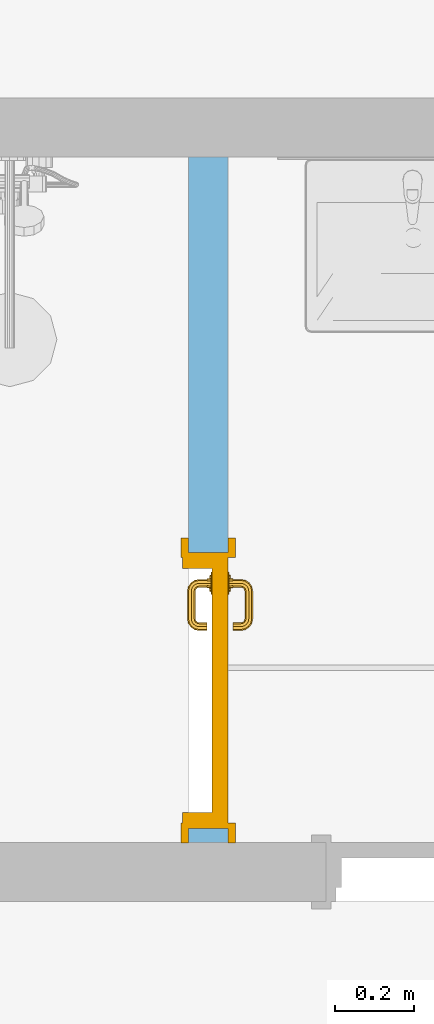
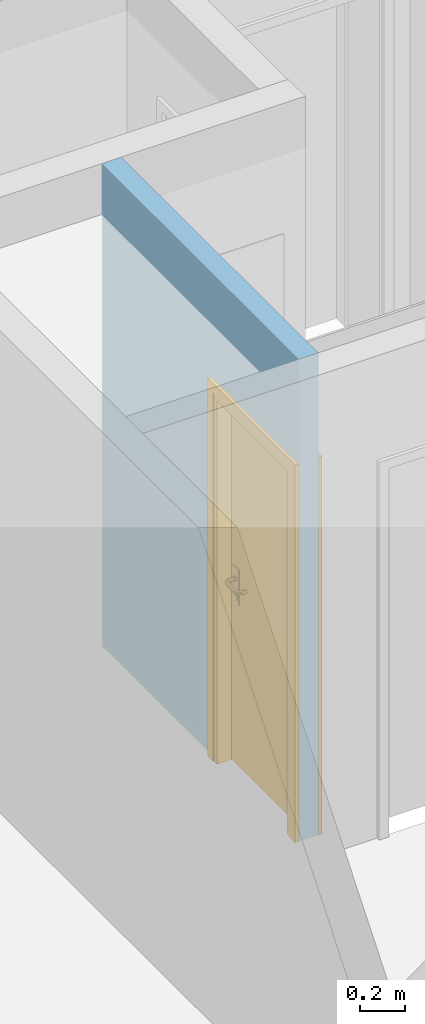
# One storey, part 49 of 127: 1 door, 1 opening, plus 1 element that does not belong to this part.
"""IFC2X3 building model written with IfcOpenShell, lengths in millimetres."""

from ifc_helpers import new_model, entity, si_unit, converted_unit, derived_unit, money_unit, direction, frame, origin_with_axes, origin_2d_with_axis, place, context, subcontext, project, spatial, polyline, rectangle, outline, extrude, open_shell, faceted_brep, surface_model, material, layer, layer_set, layer_usage, type_object, element, fill, save


model = new_model("IFC2X3")

# Units and contexts
model_context = context("Model", 3, precision=1e-05, world=origin_with_axes(), true_north=direction((0.0, 1.0)))
body_context = subcontext(model_context, "Body", "Model", "MODEL_VIEW")
ifc_project = project(units=[si_unit("LENGTHUNIT", "METRE", prefix="MILLI"), si_unit("AREAUNIT", "SQUARE_METRE"), si_unit("VOLUMEUNIT", "CUBIC_METRE"), converted_unit("PLANEANGLEUNIT", "DEGREE", entity("IfcPlaneAngleMeasure", 0.0174532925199), si_unit("PLANEANGLEUNIT", "RADIAN"), dimensions=[0, 0, 0, 0, 0, 0, 0]), si_unit("SOLIDANGLEUNIT", "STERADIAN"), money_unit("EUR"), converted_unit("TIMEUNIT", "Year", entity("IfcTimeMeasure", 31556926.0), si_unit("TIMEUNIT", "SECOND"), dimensions=[0, 0, 1, 0, 0, 0, 0]), si_unit("MASSUNIT", "GRAM", prefix="KILO"), si_unit("THERMODYNAMICTEMPERATUREUNIT", "DEGREE_CELSIUS"), si_unit("LUMINOUSINTENSITYUNIT", "LUMEN"), si_unit("ENERGYUNIT", "JOULE", prefix="MEGA"), derived_unit("THERMALCONDUCTANCEUNIT", [(si_unit("POWERUNIT", "WATT"), 1), (si_unit("LENGTHUNIT", "METRE"), -1), (si_unit("THERMODYNAMICTEMPERATUREUNIT", "KELVIN"), -1)]), derived_unit("SPECIFICHEATCAPACITYUNIT", [(si_unit("ENERGYUNIT", "JOULE"), 1), (si_unit("MASSUNIT", "GRAM", prefix="KILO"), -1), (si_unit("THERMODYNAMICTEMPERATUREUNIT", "KELVIN"), -1)]), derived_unit("MASSDENSITYUNIT", [(si_unit("MASSUNIT", "GRAM", prefix="KILO"), 1), (si_unit("VOLUMEUNIT", "CUBIC_METRE"), -1)])], contexts=[model_context])

# Site, building, storey
site_placement = place(None, origin_with_axes())
site = spatial("IfcSite", under=ifc_project, at=site_placement, Name="Site", CompositionType="ELEMENT")
building_placement = place(site_placement, origin_with_axes())
building = spatial("IfcBuilding", under=site, at=building_placement, Name="Building", CompositionType="ELEMENT")
storey_placement = place(building_placement, origin_with_axes())
storey = spatial("IfcBuildingStorey", under=building, at=storey_placement, Name="1 KORRUS", CompositionType="ELEMENT", Elevation=0.0)

# Wall, opening, door
ifc_material = material(Name="Kivi -Ol.Olev Konstruktsioon")
ifc_layer = layer(ifc_material, 100.0, ventilated="UNKNOWN")
ifc_layer_set = layer_set([ifc_layer], Name="ol.olev ss 100")
ifc_layer_usage = layer_usage(ifc_layer_set, "AXIS2", "POSITIVE", 0.0)
wall_type = type_object("IfcWallType", Name="SW - 036", PredefinedType="NOTDEFINED")
wall_placement = place(storey_placement, frame((69999.2702894, 39274.0649255, 0.0), z_axis=(0.0, 0.0, 1.0), x_axis=(0.0, -1.0, 0.0)))
wall = element("IfcWallStandardCase", 1, at=wall_placement, inside=storey, type_object=wall_type, material=ifc_layer_usage, Name="ol.olev ss 100", context=body_context, shape_type="SweptSolid", body=[
    extrude(outline(polyline([(0.0, 0.0), (1739.99999933, 0.0), (1739.99999934, 100.0), (0.0, 100.0), (0.0, 0.0)])), origin_with_axes(), (0.0, 0.0, 1.0), 2600.0),
])
opening_placement = place(wall_placement, frame((1354.10934327, 0.0, 0.0), z_axis=(0.0, 0.0, 1.0), x_axis=(1.0, 0.0, 0.0)))
opening = element("IfcOpeningElement", 2, at=opening_placement, cuts=wall, Name="Siseuks * Door 22", context=body_context, shape_type="SweptSolid", body=[
    extrude(rectangle(XDim=700.000000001, YDim=2000.0, at=origin_2d_with_axis()), frame((0.0, -100.0, 1000.0), z_axis=(0.0, 1.0, 0.0), x_axis=(1.0, 0.0, 0.0)), (0.0, 0.0, 1.0), 300.0),
    extrude(rectangle(XDim=773.999999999, YDim=2037.0, at=origin_2d_with_axis()), frame((0.0, 0.0, 1018.5), z_axis=(0.0, 1.0, 0.0), x_axis=(1.0, 0.0, 0.0)), (0.0, 0.0, -1.0), 100.0),
    extrude(rectangle(XDim=773.999999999, YDim=2037.0, at=origin_2d_with_axis()), frame((0.0, 100.0, 1018.5), z_axis=(0.0, -1.0, 0.0), x_axis=(1.0, 0.0, 0.0)), (0.0, 0.0, -1.0), 100.0),
])
door_style = type_object("IfcDoorStyle", Name="SU-B126B   700×2\xa0000", ConstructionType="NOTDEFINED", OperationType="SINGLE_SWING_RIGHT", ParameterTakesPrecedence=False, Sizeable=False)
door_placement = place(opening_placement, frame((-350.0, 0.0, 0.0), z_axis=(0.0, 0.0, 1.0), x_axis=(1.0, 0.0, 0.0)))
door = element("IfcDoor", 3, at=door_placement, inside=storey, type_object=door_style, Name="Siseuks * Door 22", OverallHeight=2000.0, OverallWidth=700.0, context=body_context, shape_type="SurfaceModel", body=[
    faceted_brep([(-36.9999999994, -19.0, 0.0), (-36.9999999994, 0.0, 0.0), (12.9999999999, 0.0, 0.0), (12.9999999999, -19.0, 0.0), (-36.9999999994, -19.0, 2037.0), (-36.9999999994, 0.0, 2037.0), (12.9999999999, 0.0, 1987.0), (12.9999999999, -19.0, 1987.0)], [[[0, 1, 2, 3]], [[4, 5, 1, 0]], [[1, 5, 6, 2]], [[3, 2, 6, 7]], [[0, 3, 7, 4]], [[7, 6, 5, 4]]]),
    faceted_brep([(737.0, -19.0, 2037.0), (737.0, 0.0, 2037.0), (687.000000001, 0.0, 1987.0), (687.000000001, -19.0, 1987.0), (737.0, -19.0, 0.0), (737.0, 0.0, 0.0), (687.000000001, 0.0, 0.0), (687.000000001, -19.0, 0.0)], [[[0, 1, 2, 3]], [[4, 5, 1, 0]], [[1, 5, 6, 2]], [[3, 2, 6, 7]], [[0, 3, 7, 4]], [[7, 6, 5, 4]]]),
    faceted_brep([(-36.9999999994, -19.0, 2037.0), (-36.9999999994, 0.0, 2037.0), (12.9999999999, 0.0, 1987.0), (12.9999999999, -19.0, 1987.0), (737.0, -19.0, 2037.0), (737.0, 0.0, 2037.0), (687.000000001, 0.0, 1987.0), (687.000000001, -19.0, 1987.0)], [[[0, 1, 2, 3]], [[4, 5, 1, 0]], [[1, 5, 6, 2]], [[3, 2, 6, 7]], [[0, 3, 7, 4]], [[7, 6, 5, 4]]]),
    faceted_brep([(-36.9999999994, 119.0, 0.0), (12.9999999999, 119.0, 0.0), (12.9999999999, 100.0, 0.0), (-36.9999999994, 100.0, 0.0), (-36.9999999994, 119.0, 2037.0), (12.9999999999, 119.0, 1987.0), (12.9999999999, 100.0, 1987.0), (-36.9999999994, 100.0, 2037.0)], [[[0, 1, 2, 3]], [[0, 4, 5, 1]], [[1, 5, 6, 2]], [[3, 2, 6, 7]], [[4, 0, 3, 7]], [[5, 4, 7, 6]]]),
    faceted_brep([(737.0, 119.0, 2037.0), (687.000000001, 119.0, 1987.0), (687.000000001, 100.0, 1987.0), (737.0, 100.0, 2037.0), (737.0, 119.0, 0.0), (687.000000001, 119.0, 0.0), (687.000000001, 100.0, 0.0), (737.0, 100.0, 0.0)], [[[0, 1, 2, 3]], [[0, 4, 5, 1]], [[1, 5, 6, 2]], [[3, 2, 6, 7]], [[4, 0, 3, 7]], [[5, 4, 7, 6]]]),
    faceted_brep([(-36.9999999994, 119.0, 2037.0), (12.9999999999, 119.0, 1987.0), (12.9999999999, 100.0, 1987.0), (-36.9999999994, 100.0, 2037.0), (737.0, 119.0, 2037.0), (687.000000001, 119.0, 1987.0), (687.000000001, 100.0, 1987.0), (737.0, 100.0, 2037.0)], [[[0, 1, 2, 3]], [[0, 4, 5, 1]], [[1, 5, 6, 2]], [[3, 2, 6, 7]], [[4, 0, 3, 7]], [[5, 4, 7, 6]]]),
    faceted_brep([(40.0, 60.0000000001, 0.0), (40.0, 60.0000000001, 1960.0), (40.0, -15.0, 1960.0), (40.0, -15.0, 0.0), (28.0000000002, 60.0000000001, 1960.0), (28.0000000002, 60.0000000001, 0.0), (28.0000000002, 100.0, 1960.0), (0.0, 100.0, 1960.0), (0.0, -15.0, 1960.0), (0.0, -15.0, 0.0), (0.0, 100.0, 0.0), (28.0000000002, 100.0, 0.0)], [[[0, 1, 2, 3]], [[4, 1, 0, 5]], [[4, 6, 7, 8, 2, 1]], [[3, 2, 8, 9]], [[5, 0, 3, 9, 10, 11]], [[6, 4, 5, 11]], [[6, 11, 10, 7]], [[10, 9, 8, 7]]]),
    faceted_brep([(672.0, 60.0000000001, 1960.0), (660.000000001, 60.0000000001, 1960.0), (660.000000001, -15.0, 1960.0), (700.000000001, -15.0, 1960.0), (700.000000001, 100.0, 1960.0), (672.0, 100.0, 1960.0), (672.0, 60.0000000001, 0.0), (660.000000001, 60.0000000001, 0.0), (660.000000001, -15.0, 0.0), (700.000000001, -15.0, 0.0), (700.000000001, 100.0, 0.0), (672.0, 100.0, 0.0)], [[[0, 1, 2, 3, 4, 5]], [[1, 0, 6, 7]], [[1, 7, 8, 2]], [[3, 2, 8, 9]], [[4, 3, 9, 10]], [[11, 5, 4, 10]], [[0, 5, 11, 6]], [[6, 11, 10, 9, 8, 7]]]),
    faceted_brep([(28.0000000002, 100.0, 1972.0), (28.0000000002, 100.0, 1960.0), (0.0, 100.0, 1960.0), (0.0, 100.0, 2000.0), (700.000000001, 100.0, 2000.0), (700.000000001, 100.0, 1960.0), (672.0, 100.0, 1960.0), (672.0, 100.0, 1972.0), (28.0000000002, 60.0000000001, 1972.0), (28.0000000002, 60.0000000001, 1960.0), (40.0, 60.0000000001, 1960.0), (40.0, -15.0, 1960.0), (0.0, -15.0, 1960.0), (0.0, -15.0, 2000.0), (700.000000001, -15.0, 2000.0), (700.000000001, -15.0, 1960.0), (672.0, 60.0000000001, 1960.0), (660.000000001, -15.0, 1960.0), (660.000000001, 60.0000000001, 1960.0), (672.0, 60.0000000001, 1972.0)], [[[0, 1, 2, 3, 4, 5, 6, 7]], [[1, 0, 8, 9]], [[9, 10, 11, 12, 2, 1]], [[2, 12, 13, 3]], [[3, 13, 14, 4]], [[4, 14, 15, 5]], [[16, 6, 5, 15, 17, 18]], [[7, 6, 16, 19]], [[0, 7, 19, 8]], [[16, 18, 10, 9, 8, 19]], [[10, 18, 17, 11]], [[17, 15, 14, 13, 12, 11]]]),
    faceted_brep([(49.5000000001, 60.0000000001, 1060.0), (49.5000000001, 57.0, 1060.0), (106.500000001, 57.0, 1060.0), (106.500000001, 60.0000000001, 1060.0), (49.5000000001, 60.0000000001, 870.0), (49.5000000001, 57.0, 870.0), (106.500000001, 57.0, 870.0), (106.500000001, 60.0000000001, 870.0)], [[[0, 1, 2, 3]], [[4, 5, 1, 0]], [[1, 5, 6, 2]], [[3, 2, 6, 7]], [[0, 3, 7, 4]], [[7, 6, 5, 4]]]),
    surface_model("IfcShellBasedSurfaceModel", [(88.0000000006, 47.0, 1000.0), (88.0000000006, 27.9849140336, 1000.0), (85.0710678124, 27.696439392, 992.928932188), (85.0710678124, 47.0, 992.928932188), (85.0710678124, 47.0, 1007.07106781), (85.0710678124, 27.696439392, 1007.07106781), (88.9422033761, 23.2481377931, 1000.0), (86.1832095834, 22.1053251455, 992.928932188), (78.0000000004, 27.0, 990.0), (78.0000000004, 47.0, 990.0), (78.0000000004, 47.0, 1010.0), (78.0000000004, 27.0, 1010.0), (86.1832095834, 22.1053251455, 1007.07106781), (91.0674625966, 20.0674625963, 1000.0), (88.9558201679, 17.9558201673, 992.928932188), (79.5224093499, 19.3463313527, 990.0), (70.9289321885, 26.303560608, 992.928932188), (70.9289321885, 47.0, 992.928932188), (70.9289321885, 47.0, 1007.07106781), (70.9289321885, 26.303560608, 1007.07106781), (79.5224093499, 19.3463313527, 1010.0), (88.9558201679, 17.9558201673, 1007.07106781), (94.2481377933, 17.9422033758, 1000.0), (93.1053251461, 15.1832095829, 992.928932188), (83.857864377, 12.8578643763, 990.0), (72.8616091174, 16.5873375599, 992.928932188), (68.0000000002, 26.0150859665, 1000.0), (68.0000000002, 47.0, 1000.0), (72.8616091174, 16.5873375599, 1007.07106781), (83.857864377, 12.8578643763, 1010.0), (93.1053251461, 15.1832095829, 1007.07106781), (98.9849140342, 17.0000000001, 1000.0), (98.6964393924, 14.0710678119, 992.928932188), (90.3463313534, 8.52240934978, 990.0), (78.7599085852, 7.75990858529, 992.928932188), (70.1026153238, 15.4445249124, 1000.0), (78.7599085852, 7.75990858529, 1007.07106781), (90.3463313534, 8.52240934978, 1010.0), (98.6964393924, 14.0710678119, 1007.07106781), (167.015085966, 17.0000000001, 1000.0), (167.303560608, 14.0710678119, 992.928932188), (98.0, 7.00000000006, 990.0), (87.5873375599, 1.86160911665, 992.928932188), (76.6482661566, 5.64826615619, 1000.0), (87.5873375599, 1.86160911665, 1007.07106781), (98.0, 7.00000000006, 1010.0), (167.303560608, 14.0710678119, 1007.07106781), (171.751862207, 17.9422033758, 1000.0), (172.894674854, 15.1832095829, 992.928932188), (168.000000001, 7.00000000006, 990.0), (97.3035606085, -0.0710678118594, 992.928932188), (86.4445249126, -0.897384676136, 1000.0), (97.3035606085, -0.0710678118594, 1007.07106781), (168.000000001, 7.00000000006, 1010.0), (172.894674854, 15.1832095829, 1007.07106781), (174.932537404, 20.0674625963, 1000.0), (177.044179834, 17.9558201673, 992.928932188), (175.653668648, 8.52240934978, 990.0), (168.696439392, -0.0710678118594, 992.928932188), (97.0150859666, -2.99999999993, 1000.0), (168.696439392, -0.0710678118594, 1007.07106781), (175.653668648, 8.52240934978, 1010.0), (177.044179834, 17.9558201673, 1007.07106781), (177.057796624, 23.2481377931, 1000.0), (179.816790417, 22.1053251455, 992.928932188), (182.142135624, 12.8578643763, 990.0), (178.412662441, 1.86160911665, 992.928932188), (168.984914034, -2.99999999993, 1000.0), (178.412662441, 1.86160911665, 1007.07106781), (182.142135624, 12.8578643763, 1010.0), (179.816790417, 22.1053251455, 1007.07106781), (178.000000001, 27.9849140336, 1000.0), (180.928932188, 27.696439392, 992.928932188), (186.477590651, 19.3463313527, 990.0), (187.240091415, 7.75990858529, 992.928932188), (179.555475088, -0.897384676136, 1000.0), (187.240091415, 7.75990858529, 1007.07106781), (186.477590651, 19.3463313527, 1010.0), (180.928932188, 27.696439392, 1007.07106781), (178.000000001, 47.0, 1000.0), (180.928932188, 47.0, 992.928932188), (188.0, 27.0, 990.0), (193.138390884, 16.5873375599, 992.928932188), (189.351733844, 5.64826615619, 1000.0), (193.138390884, 16.5873375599, 1007.07106781), (188.0, 27.0, 1010.0), (180.928932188, 47.0, 1007.07106781), (188.0, 47.0, 1010.0), (195.071067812, 47.0, 1007.07106781), (198.0, 47.0, 1000.0), (195.071067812, 47.0, 992.928932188), (188.0, 47.0, 990.0), (195.071067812, 26.303560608, 992.928932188), (195.897384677, 15.4445249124, 1000.0), (195.071067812, 26.303560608, 1007.07106781), (198.0, 26.0150859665, 1000.0)], [open_shell([[[0, 1, 2, 3]], [[4, 5, 1, 0]], [[1, 6, 7, 2]], [[3, 2, 8, 9]], [[10, 11, 5, 4]], [[5, 12, 6, 1]], [[6, 13, 14, 7]], [[2, 7, 15, 8]], [[9, 8, 16, 17]], [[18, 19, 11, 10]], [[11, 20, 12, 5]], [[12, 21, 13, 6]], [[13, 22, 23, 14]], [[7, 14, 24, 15]], [[8, 15, 25, 16]], [[17, 16, 26, 27]], [[27, 26, 19, 18]], [[19, 28, 20, 11]], [[20, 29, 21, 12]], [[21, 30, 22, 13]], [[22, 31, 32, 23]], [[14, 23, 33, 24]], [[15, 24, 34, 25]], [[16, 25, 35, 26]], [[26, 35, 28, 19]], [[28, 36, 29, 20]], [[29, 37, 30, 21]], [[30, 38, 31, 22]], [[31, 39, 40, 32]], [[23, 32, 41, 33]], [[24, 33, 42, 34]], [[25, 34, 43, 35]], [[35, 43, 36, 28]], [[36, 44, 37, 29]], [[37, 45, 38, 30]], [[38, 46, 39, 31]], [[39, 47, 48, 40]], [[32, 40, 49, 41]], [[33, 41, 50, 42]], [[34, 42, 51, 43]], [[43, 51, 44, 36]], [[44, 52, 45, 37]], [[45, 53, 46, 38]], [[46, 54, 47, 39]], [[47, 55, 56, 48]], [[40, 48, 57, 49]], [[41, 49, 58, 50]], [[42, 50, 59, 51]], [[51, 59, 52, 44]], [[52, 60, 53, 45]], [[53, 61, 54, 46]], [[54, 62, 55, 47]], [[55, 63, 64, 56]], [[48, 56, 65, 57]], [[49, 57, 66, 58]], [[50, 58, 67, 59]], [[59, 67, 60, 52]], [[60, 68, 61, 53]], [[61, 69, 62, 54]], [[62, 70, 63, 55]], [[63, 71, 72, 64]], [[56, 64, 73, 65]], [[57, 65, 74, 66]], [[58, 66, 75, 67]], [[67, 75, 68, 60]], [[68, 76, 69, 61]], [[69, 77, 70, 62]], [[70, 78, 71, 63]], [[71, 79, 80, 72]], [[64, 72, 81, 73]], [[65, 73, 82, 74]], [[66, 74, 83, 75]], [[75, 83, 76, 68]], [[76, 84, 77, 69]], [[77, 85, 78, 70]], [[78, 86, 79, 71]], [[79, 86, 87, 88, 89, 90, 91, 80]], [[72, 80, 91, 81]], [[73, 81, 92, 82]], [[74, 82, 93, 83]], [[83, 93, 84, 76]], [[84, 94, 85, 77]], [[85, 87, 86, 78]], [[94, 88, 87, 85]], [[95, 89, 88, 94]], [[92, 90, 89, 95]], [[81, 91, 90, 92]], [[82, 92, 95, 93]], [[93, 95, 94, 84]]])]),
    faceted_brep([(88.3923048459, 47.0, 994.0), (89.2583302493, 57.0, 993.5), (91.0000000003, 57.0, 1000.0), (90.0000000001, 47.0, 1000.0), (84.0000000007, 47.0, 989.607695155), (84.4999999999, 57.0, 988.741669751), (78.0000000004, 57.0, 987.0), (71.5, 57.0, 988.741669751), (66.7416697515, 57.0, 993.5), (65.0000000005, 57.0, 1000.0), (66.7416697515, 57.0, 1006.5), (71.5, 57.0, 1011.25833025), (78.0000000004, 57.0, 1013.0), (84.4999999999, 57.0, 1011.25833025), (89.2583302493, 57.0, 1006.5), (88.3923048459, 47.0, 1006.0), (84.0000000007, 47.0, 1010.39230485), (78.0000000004, 47.0, 1012.0), (72.0000000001, 47.0, 1010.39230485), (67.6076951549, 47.0, 1006.0), (66.0000000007, 47.0, 1000.0), (67.6076951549, 47.0, 994.0), (72.0000000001, 47.0, 989.607695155), (78.0000000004, 47.0, 988.0)], [[[0, 1, 2, 3]], [[4, 5, 1, 0]], [[2, 1, 5, 6, 7, 8, 9, 10, 11, 12, 13, 14]], [[3, 2, 14, 15]], [[3, 15, 16, 17, 18, 19, 20, 21, 22, 23, 4, 0]], [[23, 6, 5, 4]], [[22, 7, 6, 23]], [[21, 8, 7, 22]], [[20, 9, 8, 21]], [[19, 10, 9, 20]], [[18, 11, 10, 19]], [[17, 12, 11, 18]], [[16, 13, 12, 17]], [[15, 14, 13, 16]]]),
    faceted_brep([(95.3205080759, 53.0, 895.0), (97.0525588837, 57.0, 894.0), (100.0, 57.0, 905.0), (98.0, 53.0, 905.0), (88.0000000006, 53.0, 887.679491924), (88.9999999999, 57.0, 885.947441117), (78.0000000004, 57.0, 883.0), (67.0, 57.0, 885.947441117), (58.9474411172, 57.0, 894.0), (56.0000000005, 57.0, 905.0), (58.9474411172, 57.0, 916.0), (67.0, 57.0, 924.052558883), (78.0000000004, 57.0, 927.0), (88.9999999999, 57.0, 924.052558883), (97.0525588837, 57.0, 916.0), (95.3205080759, 53.0, 915.0), (88.0000000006, 53.0, 922.320508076), (78.0000000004, 53.0, 925.0), (68.0000000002, 53.0, 922.320508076), (60.6794919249, 53.0, 915.0), (58.0, 53.0, 905.0), (60.6794919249, 53.0, 895.0), (68.0000000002, 53.0, 887.679491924), (78.0000000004, 53.0, 885.0)], [[[0, 1, 2, 3]], [[4, 5, 1, 0]], [[2, 1, 5, 6, 7, 8, 9, 10, 11, 12, 13, 14]], [[3, 2, 14, 15]], [[3, 15, 16, 17, 18, 19, 20, 21, 22, 23, 4, 0]], [[23, 6, 5, 4]], [[22, 7, 6, 23]], [[21, 8, 7, 22]], [[20, 9, 8, 21]], [[19, 10, 9, 20]], [[18, 11, 10, 19]], [[17, 12, 11, 18]], [[16, 13, 12, 17]], [[15, 14, 13, 16]]]),
    faceted_brep([(82.9497474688, 51.0, 909.050252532), (83.65685425, 53.0, 908.343145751), (86.0000000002, 53.0, 914.0), (85.0, 51.0, 914.0), (78.0000000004, 51.0, 907.0), (78.0000000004, 53.0, 906.0), (72.3431457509, 53.0, 908.343145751), (70.0000000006, 53.0, 914.0), (72.3431457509, 53.0, 919.656854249), (78.0000000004, 53.0, 922.0), (83.65685425, 53.0, 919.656854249), (82.9497474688, 51.0, 918.949747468), (78.0000000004, 51.0, 921.0), (73.0502525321, 51.0, 918.949747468), (70.9999999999, 51.0, 914.0), (73.0502525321, 51.0, 909.050252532)], [[[0, 1, 2, 3]], [[4, 5, 1, 0]], [[2, 1, 5, 6, 7, 8, 9, 10]], [[3, 2, 10, 11]], [[3, 11, 12, 13, 14, 15, 4, 0]], [[15, 6, 5, 4]], [[14, 7, 6, 15]], [[13, 8, 7, 14]], [[12, 9, 8, 13]], [[11, 10, 9, 12]]]),
    faceted_brep([(49.5000000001, 100.0, 1060.0), (106.500000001, 100.0, 1060.0), (106.500000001, 103.0, 1060.0), (49.5000000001, 103.0, 1060.0), (49.5000000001, 100.0, 870.0), (106.500000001, 100.0, 870.0), (106.500000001, 103.0, 870.0), (49.5000000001, 103.0, 870.0)], [[[0, 1, 2, 3]], [[0, 4, 5, 1]], [[1, 5, 6, 2]], [[3, 2, 6, 7]], [[4, 0, 3, 7]], [[5, 4, 7, 6]]]),
    surface_model("IfcShellBasedSurfaceModel", [(88.0000000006, 113.0, 1000.0), (85.0710678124, 113.0, 992.928932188), (85.0710678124, 132.303560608, 992.928932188), (88.0000000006, 132.015085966, 1000.0), (78.0000000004, 113.0, 990.0), (78.0000000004, 133.0, 990.0), (86.1832095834, 137.894674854, 992.928932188), (88.9422033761, 136.751862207, 1000.0), (85.0710678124, 113.0, 1007.07106781), (85.0710678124, 132.303560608, 1007.07106781), (70.9289321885, 113.0, 992.928932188), (70.9289321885, 133.696439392, 992.928932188), (79.5224093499, 140.653668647, 990.0), (88.9558201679, 142.044179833, 992.928932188), (91.0674625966, 139.932537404, 1000.0), (86.1832095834, 137.894674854, 1007.07106781), (78.0000000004, 113.0, 1010.0), (78.0000000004, 133.0, 1010.0), (68.0000000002, 113.0, 1000.0), (68.0000000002, 133.984914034, 1000.0), (72.8616091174, 143.41266244, 992.928932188), (83.857864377, 147.142135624, 990.0), (93.1053251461, 144.816790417, 992.928932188), (94.2481377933, 142.057796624, 1000.0), (88.9558201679, 142.044179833, 1007.07106781), (79.5224093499, 140.653668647, 1010.0), (70.9289321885, 113.0, 1007.07106781), (70.9289321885, 133.696439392, 1007.07106781), (70.1026153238, 144.555475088, 1000.0), (78.7599085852, 152.240091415, 992.928932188), (90.3463313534, 151.47759065, 990.0), (98.6964393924, 145.928932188, 992.928932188), (98.9849140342, 143.0, 1000.0), (93.1053251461, 144.816790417, 1007.07106781), (83.857864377, 147.142135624, 1010.0), (72.8616091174, 143.41266244, 1007.07106781), (76.6482661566, 154.351733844, 1000.0), (87.5873375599, 158.138390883, 992.928932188), (98.0, 153.0, 990.0), (167.303560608, 145.928932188, 992.928932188), (167.015085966, 143.0, 1000.0), (98.6964393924, 145.928932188, 1007.07106781), (90.3463313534, 151.47759065, 1010.0), (78.7599085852, 152.240091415, 1007.07106781), (86.4445249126, 160.897384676, 1000.0), (97.3035606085, 160.071067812, 992.928932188), (168.000000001, 153.0, 990.0), (172.894674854, 144.816790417, 992.928932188), (171.751862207, 142.057796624, 1000.0), (167.303560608, 145.928932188, 1007.07106781), (98.0, 153.0, 1010.0), (87.5873375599, 158.138390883, 1007.07106781), (97.0150859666, 163.0, 1000.0), (168.696439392, 160.071067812, 992.928932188), (175.653668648, 151.47759065, 990.0), (177.044179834, 142.044179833, 992.928932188), (174.932537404, 139.932537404, 1000.0), (172.894674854, 144.816790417, 1007.07106781), (168.000000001, 153.0, 1010.0), (97.3035606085, 160.071067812, 1007.07106781), (168.984914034, 163.0, 1000.0), (178.412662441, 158.138390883, 992.928932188), (182.142135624, 147.142135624, 990.0), (179.816790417, 137.894674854, 992.928932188), (177.057796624, 136.751862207, 1000.0), (177.044179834, 142.044179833, 1007.07106781), (175.653668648, 151.47759065, 1010.0), (168.696439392, 160.071067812, 1007.07106781), (179.555475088, 160.897384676, 1000.0), (187.240091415, 152.240091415, 992.928932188), (186.477590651, 140.653668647, 990.0), (180.928932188, 132.303560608, 992.928932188), (178.000000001, 132.015085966, 1000.0), (179.816790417, 137.894674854, 1007.07106781), (182.142135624, 147.142135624, 1010.0), (178.412662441, 158.138390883, 1007.07106781), (189.351733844, 154.351733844, 1000.0), (193.138390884, 143.41266244, 992.928932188), (188.0, 133.0, 990.0), (180.928932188, 113.0, 992.928932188), (178.000000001, 113.0, 1000.0), (180.928932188, 132.303560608, 1007.07106781), (186.477590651, 140.653668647, 1010.0), (187.240091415, 152.240091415, 1007.07106781), (195.897384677, 144.555475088, 1000.0), (195.071067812, 133.696439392, 992.928932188), (188.0, 113.0, 990.0), (195.071067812, 113.0, 992.928932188), (198.0, 113.0, 1000.0), (195.071067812, 113.0, 1007.07106781), (188.0, 113.0, 1010.0), (180.928932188, 113.0, 1007.07106781), (188.0, 133.0, 1010.0), (193.138390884, 143.41266244, 1007.07106781), (198.0, 133.984914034, 1000.0), (195.071067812, 133.696439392, 1007.07106781)], [open_shell([[[0, 1, 2, 3]], [[1, 4, 5, 2]], [[3, 2, 6, 7]], [[8, 0, 3, 9]], [[4, 10, 11, 5]], [[2, 5, 12, 6]], [[7, 6, 13, 14]], [[9, 3, 7, 15]], [[16, 8, 9, 17]], [[10, 18, 19, 11]], [[5, 11, 20, 12]], [[6, 12, 21, 13]], [[14, 13, 22, 23]], [[15, 7, 14, 24]], [[17, 9, 15, 25]], [[26, 16, 17, 27]], [[18, 26, 27, 19]], [[11, 19, 28, 20]], [[12, 20, 29, 21]], [[13, 21, 30, 22]], [[23, 22, 31, 32]], [[24, 14, 23, 33]], [[25, 15, 24, 34]], [[27, 17, 25, 35]], [[19, 27, 35, 28]], [[20, 28, 36, 29]], [[21, 29, 37, 30]], [[22, 30, 38, 31]], [[32, 31, 39, 40]], [[33, 23, 32, 41]], [[34, 24, 33, 42]], [[35, 25, 34, 43]], [[28, 35, 43, 36]], [[29, 36, 44, 37]], [[30, 37, 45, 38]], [[31, 38, 46, 39]], [[40, 39, 47, 48]], [[41, 32, 40, 49]], [[42, 33, 41, 50]], [[43, 34, 42, 51]], [[36, 43, 51, 44]], [[37, 44, 52, 45]], [[38, 45, 53, 46]], [[39, 46, 54, 47]], [[48, 47, 55, 56]], [[49, 40, 48, 57]], [[50, 41, 49, 58]], [[51, 42, 50, 59]], [[44, 51, 59, 52]], [[45, 52, 60, 53]], [[46, 53, 61, 54]], [[47, 54, 62, 55]], [[56, 55, 63, 64]], [[57, 48, 56, 65]], [[58, 49, 57, 66]], [[59, 50, 58, 67]], [[52, 59, 67, 60]], [[53, 60, 68, 61]], [[54, 61, 69, 62]], [[55, 62, 70, 63]], [[64, 63, 71, 72]], [[65, 56, 64, 73]], [[66, 57, 65, 74]], [[67, 58, 66, 75]], [[60, 67, 75, 68]], [[61, 68, 76, 69]], [[62, 69, 77, 70]], [[63, 70, 78, 71]], [[72, 71, 79, 80]], [[73, 64, 72, 81]], [[74, 65, 73, 82]], [[75, 66, 74, 83]], [[68, 75, 83, 76]], [[69, 76, 84, 77]], [[70, 77, 85, 78]], [[71, 78, 86, 79]], [[80, 79, 86, 87, 88, 89, 90, 91]], [[81, 72, 80, 91]], [[82, 73, 81, 92]], [[83, 74, 82, 93]], [[76, 83, 93, 84]], [[77, 84, 94, 85]], [[78, 85, 87, 86]], [[85, 94, 88, 87]], [[94, 95, 89, 88]], [[95, 92, 90, 89]], [[92, 81, 91, 90]], [[93, 82, 92, 95]], [[84, 93, 95, 94]]])]),
    faceted_brep([(88.3923048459, 113.0, 994.0), (90.0000000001, 113.0, 1000.0), (91.0000000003, 103.0, 1000.0), (89.2583302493, 103.0, 993.5), (84.0000000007, 113.0, 989.607695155), (78.0000000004, 113.0, 988.0), (72.0000000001, 113.0, 989.607695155), (67.6076951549, 113.0, 994.0), (66.0000000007, 113.0, 1000.0), (67.6076951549, 113.0, 1006.0), (72.0000000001, 113.0, 1010.39230485), (78.0000000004, 113.0, 1012.0), (84.0000000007, 113.0, 1010.39230485), (88.3923048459, 113.0, 1006.0), (89.2583302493, 103.0, 1006.5), (84.4999999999, 103.0, 1011.25833025), (78.0000000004, 103.0, 1013.0), (71.5, 103.0, 1011.25833025), (66.7416697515, 103.0, 1006.5), (65.0000000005, 103.0, 1000.0), (66.7416697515, 103.0, 993.5), (71.5, 103.0, 988.741669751), (78.0000000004, 103.0, 987.0), (84.4999999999, 103.0, 988.741669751)], [[[0, 1, 2, 3]], [[1, 0, 4, 5, 6, 7, 8, 9, 10, 11, 12, 13]], [[1, 13, 14, 2]], [[2, 14, 15, 16, 17, 18, 19, 20, 21, 22, 23, 3]], [[4, 0, 3, 23]], [[5, 4, 23, 22]], [[6, 5, 22, 21]], [[7, 6, 21, 20]], [[8, 7, 20, 19]], [[9, 8, 19, 18]], [[10, 9, 18, 17]], [[11, 10, 17, 16]], [[12, 11, 16, 15]], [[13, 12, 15, 14]]]),
    faceted_brep([(95.3205080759, 107.0, 895.0), (98.0, 107.0, 905.0), (100.0, 103.0, 905.0), (97.0525588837, 103.0, 894.0), (88.0000000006, 107.0, 887.679491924), (78.0000000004, 107.0, 885.0), (68.0000000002, 107.0, 887.679491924), (60.6794919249, 107.0, 895.0), (58.0, 107.0, 905.0), (60.6794919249, 107.0, 915.0), (68.0000000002, 107.0, 922.320508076), (78.0000000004, 107.0, 925.0), (88.0000000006, 107.0, 922.320508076), (95.3205080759, 107.0, 915.0), (97.0525588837, 103.0, 916.0), (88.9999999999, 103.0, 924.052558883), (78.0000000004, 103.0, 927.0), (67.0, 103.0, 924.052558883), (58.9474411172, 103.0, 916.0), (56.0000000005, 103.0, 905.0), (58.9474411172, 103.0, 894.0), (67.0, 103.0, 885.947441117), (78.0000000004, 103.0, 883.0), (88.9999999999, 103.0, 885.947441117)], [[[0, 1, 2, 3]], [[1, 0, 4, 5, 6, 7, 8, 9, 10, 11, 12, 13]], [[1, 13, 14, 2]], [[2, 14, 15, 16, 17, 18, 19, 20, 21, 22, 23, 3]], [[4, 0, 3, 23]], [[5, 4, 23, 22]], [[6, 5, 22, 21]], [[7, 6, 21, 20]], [[8, 7, 20, 19]], [[9, 8, 19, 18]], [[10, 9, 18, 17]], [[11, 10, 17, 16]], [[12, 11, 16, 15]], [[13, 12, 15, 14]]]),
    faceted_brep([(82.9497474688, 109.0, 909.050252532), (85.0, 109.0, 914.0), (86.0000000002, 107.0, 914.0), (83.65685425, 107.0, 908.343145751), (78.0000000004, 109.0, 907.0), (73.0502525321, 109.0, 909.050252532), (70.9999999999, 109.0, 914.0), (73.0502525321, 109.0, 918.949747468), (78.0000000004, 109.0, 921.0), (82.9497474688, 109.0, 918.949747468), (83.65685425, 107.0, 919.656854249), (78.0000000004, 107.0, 922.0), (72.3431457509, 107.0, 919.656854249), (70.0000000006, 107.0, 914.0), (72.3431457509, 107.0, 908.343145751), (78.0000000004, 107.0, 906.0)], [[[0, 1, 2, 3]], [[1, 0, 4, 5, 6, 7, 8, 9]], [[1, 9, 10, 2]], [[2, 10, 11, 12, 13, 14, 15, 3]], [[4, 0, 3, 15]], [[5, 4, 15, 14]], [[6, 5, 14, 13]], [[7, 6, 13, 12]], [[8, 7, 12, 11]], [[9, 8, 11, 10]]]),
    faceted_brep([(672.0, 100.0, 0.0), (672.0, 60.0000000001, 0.0), (28.0000000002, 60.0000000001, 0.0), (28.0000000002, 100.0, 0.0), (672.0, 100.0, 1972.0), (672.0, 60.0000000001, 1972.0), (28.0000000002, 60.0000000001, 1972.0), (28.0000000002, 100.0, 1972.0)], [[[0, 1, 2, 3]], [[4, 5, 1, 0]], [[1, 5, 6, 2]], [[3, 2, 6, 7]], [[0, 3, 7, 4]], [[7, 6, 5, 4]]]),
])
fill(opening, door)

save(model, "model.ifc")
